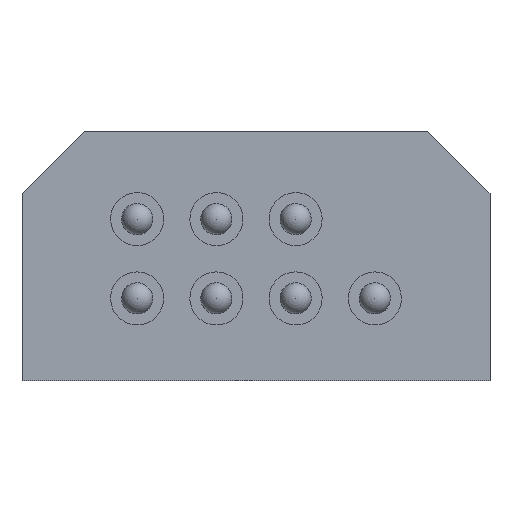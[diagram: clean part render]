
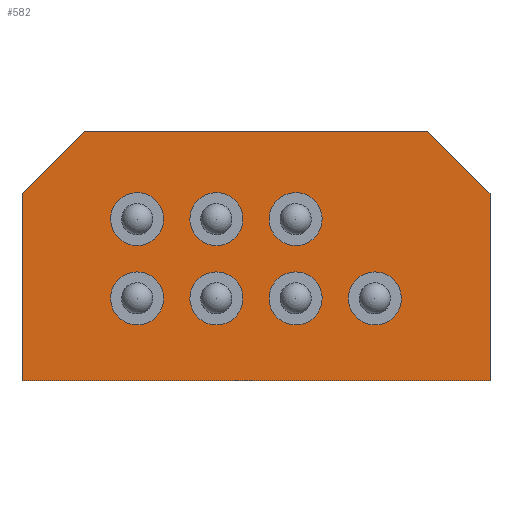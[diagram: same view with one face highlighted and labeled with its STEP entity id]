
A CAD part, front view. The second image highlights one B-rep face of the part: STEP entity #582.
In plain terms, the highlighted planar face has unit normal (0, -1, 0).
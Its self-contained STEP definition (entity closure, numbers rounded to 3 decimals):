
#20=LINE('',#976,#38);
#21=LINE('',#978,#39);
#22=LINE('',#980,#40);
#23=LINE('',#982,#41);
#24=LINE('',#984,#42);
#25=LINE('',#985,#43);
#38=VECTOR('',#827,10.);
#39=VECTOR('',#828,10.);
#40=VECTOR('',#829,10.);
#41=VECTOR('',#830,10.);
#42=VECTOR('',#831,10.);
#43=VECTOR('',#832,10.);
#60=PLANE('',#664);
#96=FACE_BOUND('',#232,.T.);
#97=FACE_BOUND('',#233,.T.);
#98=FACE_BOUND('',#234,.T.);
#99=FACE_BOUND('',#235,.T.);
#100=FACE_BOUND('',#236,.T.);
#101=FACE_BOUND('',#237,.T.);
#102=FACE_BOUND('',#238,.T.);
#158=FACE_OUTER_BOUND('',#231,.T.);
#231=EDGE_LOOP('',(#454,#455,#456,#457,#458,#459));
#232=EDGE_LOOP('',(#460));
#233=EDGE_LOOP('',(#461));
#234=EDGE_LOOP('',(#462));
#235=EDGE_LOOP('',(#463));
#236=EDGE_LOOP('',(#464));
#237=EDGE_LOOP('',(#465));
#238=EDGE_LOOP('',(#466));
#256=CIRCLE('',#614,0.85);
#260=CIRCLE('',#622,0.85);
#264=CIRCLE('',#630,0.85);
#268=CIRCLE('',#638,0.85);
#272=CIRCLE('',#646,0.85);
#276=CIRCLE('',#654,0.85);
#280=CIRCLE('',#662,0.85);
#292=VERTEX_POINT('',#886);
#296=VERTEX_POINT('',#898);
#300=VERTEX_POINT('',#910);
#304=VERTEX_POINT('',#922);
#308=VERTEX_POINT('',#934);
#312=VERTEX_POINT('',#946);
#316=VERTEX_POINT('',#958);
#323=VERTEX_POINT('',#974);
#324=VERTEX_POINT('',#975);
#325=VERTEX_POINT('',#977);
#326=VERTEX_POINT('',#979);
#327=VERTEX_POINT('',#981);
#328=VERTEX_POINT('',#983);
#340=EDGE_CURVE('',#292,#292,#256,.T.);
#344=EDGE_CURVE('',#296,#296,#260,.T.);
#348=EDGE_CURVE('',#300,#300,#264,.T.);
#352=EDGE_CURVE('',#304,#304,#268,.T.);
#356=EDGE_CURVE('',#308,#308,#272,.T.);
#360=EDGE_CURVE('',#312,#312,#276,.T.);
#364=EDGE_CURVE('',#316,#316,#280,.T.);
#371=EDGE_CURVE('',#323,#324,#20,.T.);
#372=EDGE_CURVE('',#325,#323,#21,.T.);
#373=EDGE_CURVE('',#326,#325,#22,.T.);
#374=EDGE_CURVE('',#327,#326,#23,.T.);
#375=EDGE_CURVE('',#328,#327,#24,.T.);
#376=EDGE_CURVE('',#324,#328,#25,.T.);
#454=ORIENTED_EDGE('',*,*,#371,.F.);
#455=ORIENTED_EDGE('',*,*,#372,.F.);
#456=ORIENTED_EDGE('',*,*,#373,.F.);
#457=ORIENTED_EDGE('',*,*,#374,.F.);
#458=ORIENTED_EDGE('',*,*,#375,.F.);
#459=ORIENTED_EDGE('',*,*,#376,.F.);
#460=ORIENTED_EDGE('',*,*,#364,.F.);
#461=ORIENTED_EDGE('',*,*,#360,.F.);
#462=ORIENTED_EDGE('',*,*,#356,.F.);
#463=ORIENTED_EDGE('',*,*,#352,.F.);
#464=ORIENTED_EDGE('',*,*,#348,.F.);
#465=ORIENTED_EDGE('',*,*,#344,.F.);
#466=ORIENTED_EDGE('',*,*,#340,.F.);
#582=ADVANCED_FACE('',(#158,#96,#97,#98,#99,#100,#101,#102),#60,.F.);
#614=AXIS2_PLACEMENT_3D('',#887,#719,#720);
#622=AXIS2_PLACEMENT_3D('',#899,#735,#736);
#630=AXIS2_PLACEMENT_3D('',#911,#751,#752);
#638=AXIS2_PLACEMENT_3D('',#923,#767,#768);
#646=AXIS2_PLACEMENT_3D('',#935,#783,#784);
#654=AXIS2_PLACEMENT_3D('',#947,#799,#800);
#662=AXIS2_PLACEMENT_3D('',#959,#815,#816);
#664=AXIS2_PLACEMENT_3D('',#973,#825,#826);
#719=DIRECTION('center_axis',(0.,-1.,0.));
#720=DIRECTION('ref_axis',(-0.148,0.,-0.989));
#735=DIRECTION('center_axis',(0.,-1.,0.));
#736=DIRECTION('ref_axis',(-0.148,0.,-0.989));
#751=DIRECTION('center_axis',(0.,-1.,0.));
#752=DIRECTION('ref_axis',(-0.148,0.,-0.989));
#767=DIRECTION('center_axis',(0.,-1.,0.));
#768=DIRECTION('ref_axis',(-0.148,0.,-0.989));
#783=DIRECTION('center_axis',(0.,-1.,0.));
#784=DIRECTION('ref_axis',(-0.148,0.,-0.989));
#799=DIRECTION('center_axis',(0.,-1.,0.));
#800=DIRECTION('ref_axis',(-0.148,0.,-0.989));
#815=DIRECTION('center_axis',(0.,-1.,0.));
#816=DIRECTION('ref_axis',(-0.148,0.,-0.989));
#825=DIRECTION('center_axis',(0.,1.,0.));
#826=DIRECTION('ref_axis',(0.,0.,1.));
#827=DIRECTION('',(0.,0.,1.));
#828=DIRECTION('',(-1.,0.,0.));
#829=DIRECTION('',(0.,0.,-1.));
#830=DIRECTION('',(0.707,0.,-0.707));
#831=DIRECTION('',(1.,0.,0.));
#832=DIRECTION('',(0.707,0.,0.707));
#886=CARTESIAN_POINT('',(-3.684,-16.5,3.482));
#887=CARTESIAN_POINT('Origin',(-3.81,-16.5,2.642));
#898=CARTESIAN_POINT('',(3.936,-16.5,3.482));
#899=CARTESIAN_POINT('Origin',(3.81,-16.5,2.642));
#910=CARTESIAN_POINT('',(-1.144,-16.5,3.482));
#911=CARTESIAN_POINT('Origin',(-1.27,-16.5,2.642));
#922=CARTESIAN_POINT('',(1.396,-16.5,3.482));
#923=CARTESIAN_POINT('Origin',(1.27,-16.5,2.642));
#934=CARTESIAN_POINT('',(-3.684,-16.5,6.022));
#935=CARTESIAN_POINT('Origin',(-3.81,-16.5,5.182));
#946=CARTESIAN_POINT('',(-1.144,-16.5,6.022));
#947=CARTESIAN_POINT('Origin',(-1.27,-16.5,5.182));
#958=CARTESIAN_POINT('',(1.396,-16.5,6.022));
#959=CARTESIAN_POINT('Origin',(1.27,-16.5,5.182));
#973=CARTESIAN_POINT('Origin',(0.,-16.5,3.747));
#974=CARTESIAN_POINT('',(-7.5,-16.5,0.));
#975=CARTESIAN_POINT('',(-7.5,-16.5,6.));
#976=CARTESIAN_POINT('',(-7.5,-16.5,0.));
#977=CARTESIAN_POINT('',(7.5,-16.5,0.));
#978=CARTESIAN_POINT('',(7.5,-16.5,0.));
#979=CARTESIAN_POINT('',(7.5,-16.5,6.));
#980=CARTESIAN_POINT('',(7.5,-16.5,6.));
#981=CARTESIAN_POINT('',(5.5,-16.5,8.));
#982=CARTESIAN_POINT('',(5.5,-16.5,8.));
#983=CARTESIAN_POINT('',(-5.5,-16.5,8.));
#984=CARTESIAN_POINT('',(-5.5,-16.5,8.));
#985=CARTESIAN_POINT('',(-7.5,-16.5,6.));
